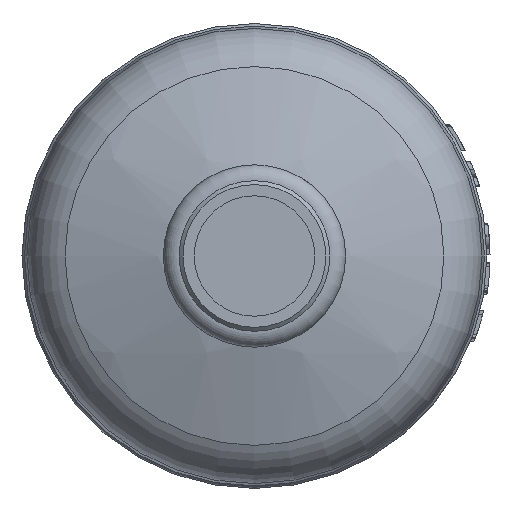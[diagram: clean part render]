
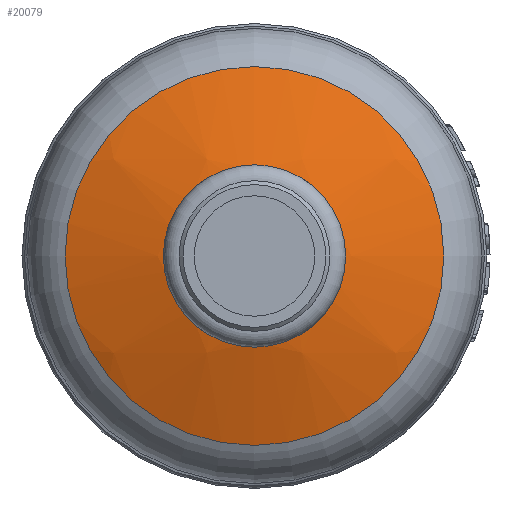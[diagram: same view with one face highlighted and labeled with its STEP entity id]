
A CAD part, front view. The second image highlights one B-rep face of the part: STEP entity #20079.
In plain terms, the highlighted spherical face has radius 60 mm.
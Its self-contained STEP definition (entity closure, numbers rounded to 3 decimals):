
#20=SPHERICAL_SURFACE('',#21642,60.);
#5105=FACE_BOUND('',#7427,.T.);
#6211=FACE_OUTER_BOUND('',#7426,.T.);
#7426=EDGE_LOOP('',(#18965));
#7427=EDGE_LOOP('',(#18966));
#7916=CIRCLE('',#21624,11.457);
#7924=CIRCLE('',#21641,23.885);
#9931=VERTEX_POINT('',#42843);
#9939=VERTEX_POINT('',#42868);
#12940=EDGE_CURVE('',#9931,#9931,#7916,.T.);
#12948=EDGE_CURVE('',#9939,#9939,#7924,.T.);
#18965=ORIENTED_EDGE('',*,*,#12948,.T.);
#18966=ORIENTED_EDGE('',*,*,#12940,.T.);
#20079=ADVANCED_FACE('',(#6211,#5105),#20,.T.);
#21624=AXIS2_PLACEMENT_3D('',#42844,#26097,#26098);
#21641=AXIS2_PLACEMENT_3D('',#42869,#26131,#26132);
#21642=AXIS2_PLACEMENT_3D('',#42870,#26133,#26134);
#26097=DIRECTION('center_axis',(0.,1.,0.));
#26098=DIRECTION('ref_axis',(0.,0.,1.));
#26131=DIRECTION('center_axis',(0.,-1.,0.));
#26132=DIRECTION('ref_axis',(1.,0.,0.));
#26133=DIRECTION('center_axis',(0.,0.,
1.));
#26134=DIRECTION('ref_axis',(-1.,0.,0.));
#42843=CARTESIAN_POINT('',(-11.457,-70.396,0.));
#42844=CARTESIAN_POINT('Origin',(0.,-70.396,0.));
#42868=CARTESIAN_POINT('',(23.885,-66.541,0.));
#42869=CARTESIAN_POINT('Origin',(0.,-66.541,
0.));
#42870=CARTESIAN_POINT('Origin',(0.,-11.5,0.));
